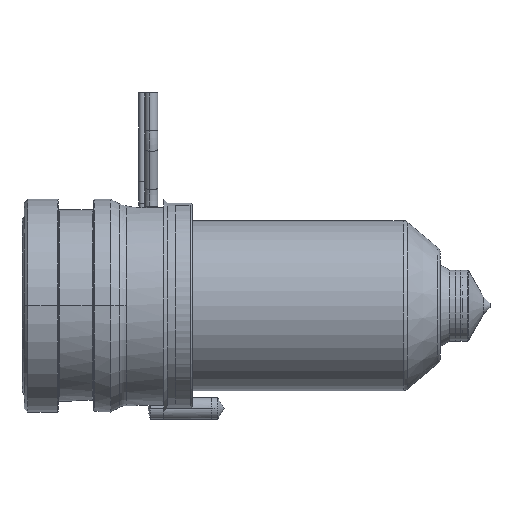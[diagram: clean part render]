
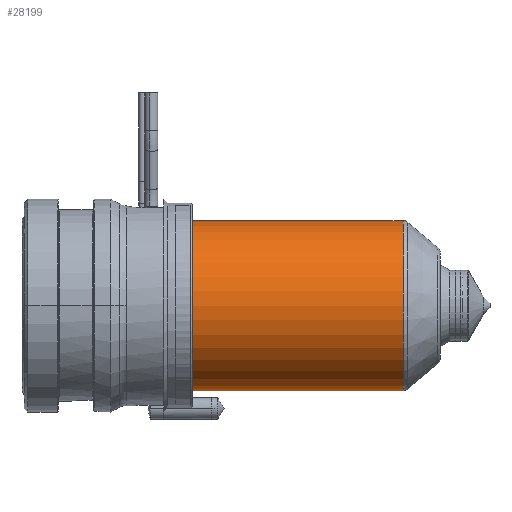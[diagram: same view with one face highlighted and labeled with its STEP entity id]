
A CAD part, left-side view. The second image highlights one B-rep face of the part: STEP entity #28199.
In plain terms, the highlighted cylindrical face has radius 12 mm (diameter 24 mm), a partial arc.
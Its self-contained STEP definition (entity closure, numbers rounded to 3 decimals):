
#27684=CARTESIAN_POINT('',(0.,-24.,0.));
#27685=DIRECTION('',(0.,1.,0.));
#27686=DIRECTION('',(0.,0.,-1.));
#27687=AXIS2_PLACEMENT_3D('',#27684,#27685,#27686);
#27692=DIRECTION('',(0.,1.,0.));
#27693=VECTOR('',#27692,29.736);
#27694=CARTESIAN_POINT('',(0.,-53.736,12.));
#27695=LINE('',#27694,#27693);
#27707=DIRECTION('',(0.,1.,0.));
#27708=VECTOR('',#27707,29.736);
#27709=CARTESIAN_POINT('',(0.,-53.736,-12.));
#27710=LINE('',#27709,#27708);
#27738=CARTESIAN_POINT('',(0.,-53.736,0.));
#27739=DIRECTION('',(0.,-1.,0.));
#27740=DIRECTION('',(0.,0.,1.));
#27741=AXIS2_PLACEMENT_3D('',#27738,#27739,#27740);
#28068=CARTESIAN_POINT('',(0.,-53.736,12.));
#28069=CARTESIAN_POINT('',(0.,-24.,12.));
#28070=VERTEX_POINT('',#28068);
#28071=VERTEX_POINT('',#28069);
#28072=CARTESIAN_POINT('',(0.,-53.736,-12.));
#28073=CARTESIAN_POINT('',(0.,-24.,-12.));
#28074=VERTEX_POINT('',#28072);
#28075=VERTEX_POINT('',#28073);
#28185=CARTESIAN_POINT('',(0.,-17.7,0.));
#28186=DIRECTION('',(0.,-1.,0.));
#28187=DIRECTION('',(0.,0.,1.));
#28188=AXIS2_PLACEMENT_3D('',#28185,#28186,#28187);
#28189=CYLINDRICAL_SURFACE('',#28188,12.);
#28191=ORIENTED_EDGE('',*,*,#28190,.F.);
#28193=ORIENTED_EDGE('',*,*,#28192,.T.);
#28195=ORIENTED_EDGE('',*,*,#28194,.T.);
#28196=ORIENTED_EDGE('',*,*,#28178,.T.);
#28197=EDGE_LOOP('',(#28191,#28193,#28195,#28196));
#28198=FACE_OUTER_BOUND('',#28197,.F.);
#28199=ADVANCED_FACE('',(#28198),#28189,.T.);
#27688=CIRCLE('',#27687,12.);
#27742=CIRCLE('',#27741,12.);
#28178=EDGE_CURVE('',#28075,#28071,#27688,.T.);
#28190=EDGE_CURVE('',#28070,#28071,#27695,.T.);
#28192=EDGE_CURVE('',#28070,#28074,#27742,.T.);
#28194=EDGE_CURVE('',#28074,#28075,#27710,.T.);
